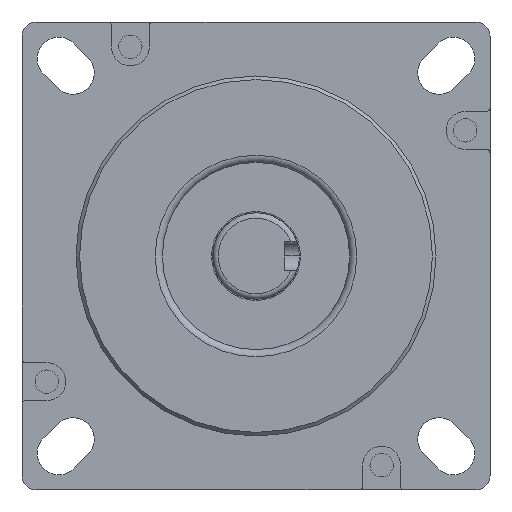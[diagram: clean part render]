
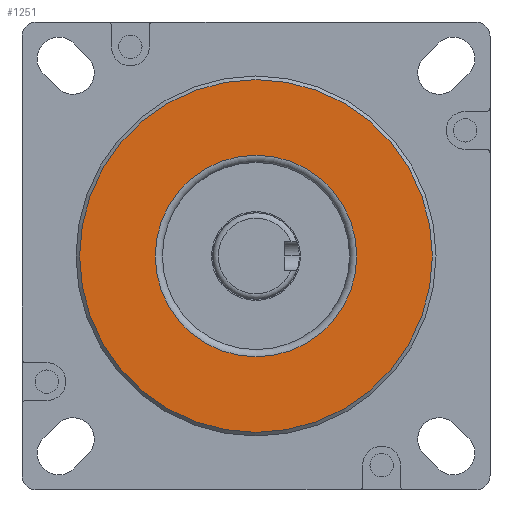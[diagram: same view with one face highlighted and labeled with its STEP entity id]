
A CAD part, front view. The second image highlights one B-rep face of the part: STEP entity #1251.
In plain terms, the highlighted planar face has unit normal (0, -1, 0).
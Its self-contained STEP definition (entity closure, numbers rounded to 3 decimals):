
#248=FACE_BOUND('',#1904,.T.);
#249=FACE_BOUND('',#1905,.T.);
#1251=ADVANCED_FACE('',(#248,#249),#1529,.T.);
#1529=PLANE('',#5236);
#1904=EDGE_LOOP('',(#2273));
#1905=EDGE_LOOP('',(#2274));
#2273=ORIENTED_EDGE('',*,*,#4250,.T.);
#2274=ORIENTED_EDGE('',*,*,#4251,.T.);
#3750=VERTEX_POINT('',#7370);
#3751=VERTEX_POINT('',#7372);
#4250=EDGE_CURVE('',#3750,#3750,#4957,.T.);
#4251=EDGE_CURVE('',#3751,#3751,#4958,.T.);
#4957=CIRCLE('',#5234,49.);
#4958=CIRCLE('',#5235,28.);
#5234=AXIS2_PLACEMENT_3D('',#7369,#5815,#5816);
#5235=AXIS2_PLACEMENT_3D('',#7371,#5817,#5818);
#5236=AXIS2_PLACEMENT_3D('',#7373,#5819,#5820);
#5815=DIRECTION('',(0.,-1.,0.));
#5816=DIRECTION('',(0.,0.,-1.));
#5817=DIRECTION('',(0.,1.,0.));
#5818=DIRECTION('',(1.,0.,0.));
#5819=DIRECTION('',(0.,-1.,0.));
#5820=DIRECTION('',(1.,0.,0.));
#7369=CARTESIAN_POINT('',(360.,-10.,50.8));
#7370=CARTESIAN_POINT('',(360.,-10.,1.8));
#7371=CARTESIAN_POINT('',(360.,-10.,50.8));
#7372=CARTESIAN_POINT('',(388.,-10.,50.8));
#7373=CARTESIAN_POINT('',(360.,-10.,50.8));
